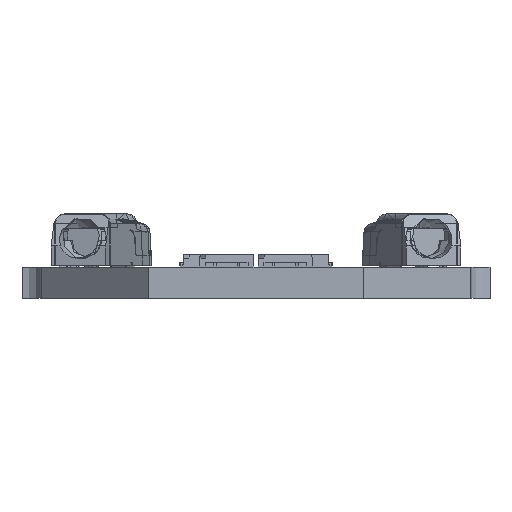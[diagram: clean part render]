
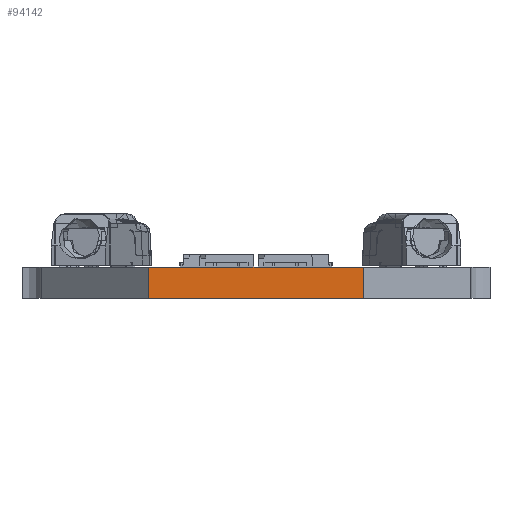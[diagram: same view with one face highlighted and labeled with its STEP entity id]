
A CAD part, left-side view. The second image highlights one B-rep face of the part: STEP entity #94142.
In plain terms, the highlighted planar face has unit normal (-1, 0, 0).
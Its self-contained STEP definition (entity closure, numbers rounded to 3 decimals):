
#5712=ORIENTED_EDGE('',*,*,#26088,.T.);
#5713=ORIENTED_EDGE('',*,*,#26225,.F.);
#5714=ORIENTED_EDGE('',*,*,#24836,.F.);
#5715=ORIENTED_EDGE('',*,*,#26330,.T.);
#24836=EDGE_CURVE('',#35324,#35325,#42392,.T.);
#26088=EDGE_CURVE('',#36577,#36576,#43343,.T.);
#26225=EDGE_CURVE('',#35325,#36576,#43403,.T.);
#26330=EDGE_CURVE('',#35324,#36577,#43508,.T.);
#35324=VERTEX_POINT('',#124326);
#35325=VERTEX_POINT('',#124328);
#36576=VERTEX_POINT('',#126831);
#36577=VERTEX_POINT('',#126833);
#42392=LINE('',#124327,#50944);
#43343=LINE('',#126832,#51895);
#43403=LINE('',#127105,#51955);
#43508=LINE('',#127337,#52060);
#50944=VECTOR('',#104244,1000.);
#51895=VECTOR('',#105799,1000.);
#51955=VECTOR('',#106015,1000.);
#52060=VECTOR('',#106374,1000.);
#58933=EDGE_LOOP('',(#5712,#5713,#5714,#5715));
#62905=FACE_BOUND('',#58933,.T.);
#66561=PLANE('',#98285);
#94142=ADVANCED_FACE('',(#62905),#66561,.F.);
#98285=AXIS2_PLACEMENT_3D('',#127336,#106372,#106373);
#104244=DIRECTION('',(0.,-1.,0.));
#105799=DIRECTION('',(0.,-1.,0.));
#106015=DIRECTION('',(0.,0.,-1.));
#106372=DIRECTION('',(1.,0.,0.));
#106373=DIRECTION('',(0.,0.,-1.));
#106374=DIRECTION('',(0.,0.,-1.));
#124326=CARTESIAN_POINT('',(-559.5,5.5,1.6));
#124327=CARTESIAN_POINT('',(-559.5,5.5,1.6));
#124328=CARTESIAN_POINT('',(-559.5,-5.5,1.6));
#126831=CARTESIAN_POINT('',(-559.5,-5.5,0.));
#126832=CARTESIAN_POINT('',(-559.5,5.5,0.));
#126833=CARTESIAN_POINT('',(-559.5,5.5,0.));
#127105=CARTESIAN_POINT('',(-559.5,-5.5,1.6));
#127336=CARTESIAN_POINT('',(-559.5,5.5,1.6));
#127337=CARTESIAN_POINT('',(-559.5,5.5,1.6));
